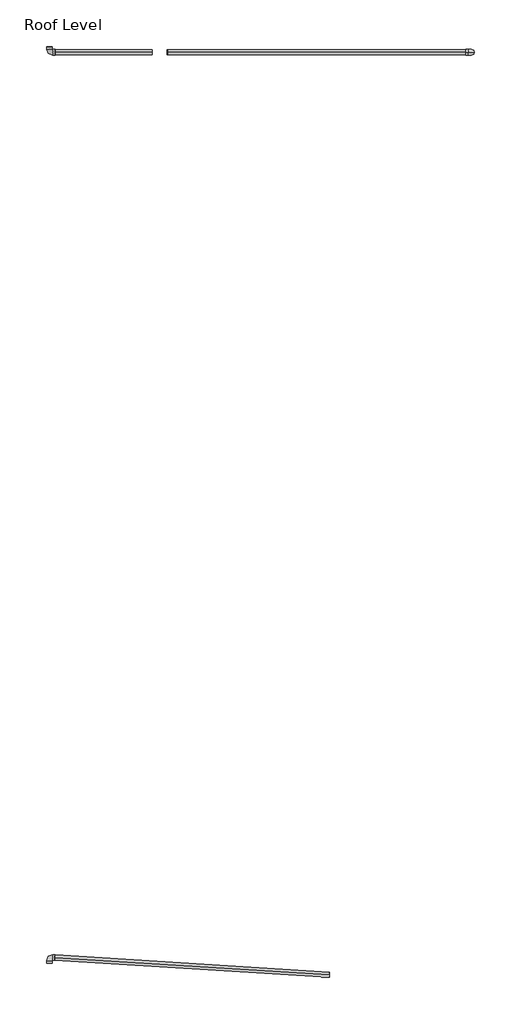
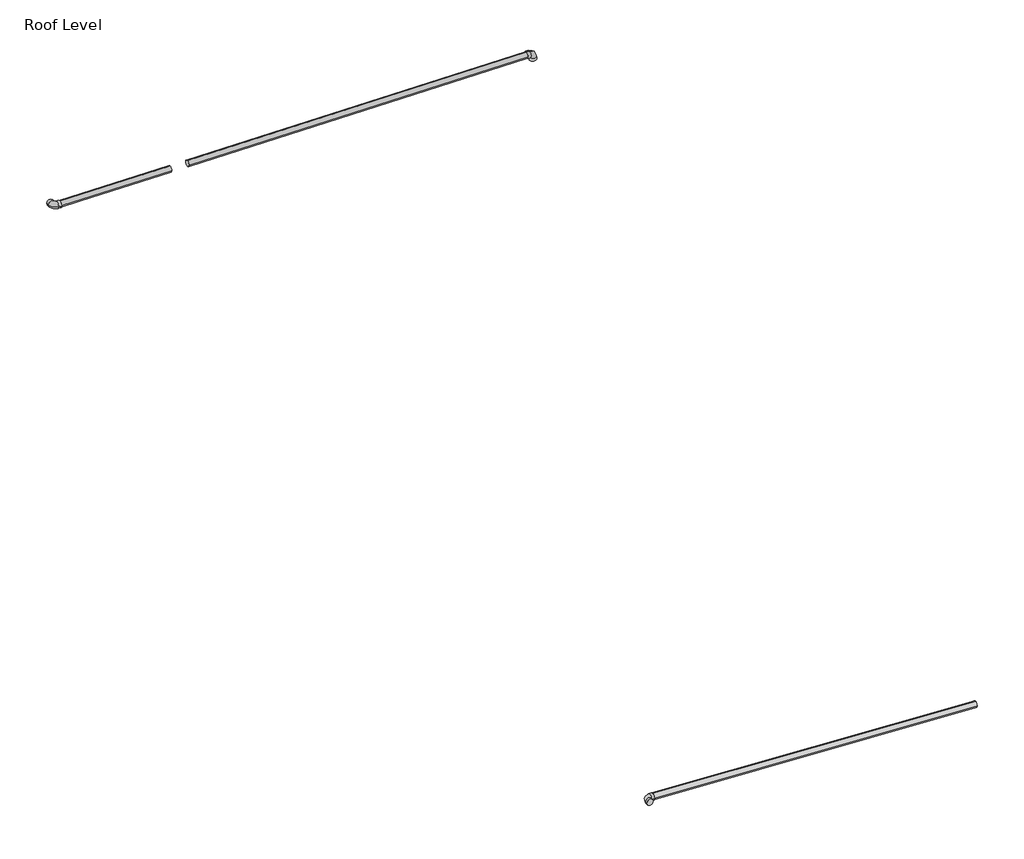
# One storey, incomplete: 3 pipe fittings, 3 pipe segments.
"""IFC4 building model written with IfcOpenShell, lengths in millimetres."""

from ifc_helpers import new_model, si_unit, point, frame, frame_2d, origin, place, context, project, spatial, circle_curve, trimmed, segment, composite_curve, outline, extrude, transform, mapped, element, save
from components import elbow_threaded_ms_standard_96f3d6e5, elbow_threaded_ms_standard_8504ba8a

model = new_model("IFC4")

# Units and contexts
model_context = context("Model", 3, world=origin())
ifc_project = project(units=[si_unit("LENGTHUNIT", "METRE", prefix="MILLI")], contexts=[model_context])

# Site, building, storey
site = spatial("IfcSite", under=ifc_project)
building = spatial("IfcBuilding", under=site)
storey = spatial("IfcBuildingStorey", under=building, Name="Roof Level", Elevation=11938.0)

# Pipe fittings
placement = place(None, origin())
elbow_threaded_ms_standard_shape = elbow_threaded_ms_standard_96f3d6e5(model_context)
element("IfcPipeFitting", 1, ObjectType="Elbow - Threaded - MS : Standard", at=placement, inside=storey, context=model_context, shape_type="MappedRepresentation", body=[
    mapped(elbow_threaded_ms_standard_shape, transform((-3065.8166812, -3992.110268, 12147.2530163), x_axis=(-0.9999218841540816, 0.0, -0.01249902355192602), y_axis=(0.00015621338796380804, -0.999921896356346, -0.012497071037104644), z_axis=(-0.012498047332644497, -0.012498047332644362, 0.9998437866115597))),
])
element("IfcPipeFitting", 2, ObjectType="Elbow - Threaded - MS : Standard", at=placement, inside=storey, context=model_context, shape_type="MappedRepresentation", body=[
    mapped(elbow_threaded_ms_standard_shape, transform((-3065.8166812, 6478.1193, 12188.1308859), x_axis=(0.0, -0.9999218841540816, -0.012499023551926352), y_axis=(0.999921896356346, 0.0001562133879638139, -0.012497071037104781), z_axis=(0.012498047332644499, -0.012498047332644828, 0.9998437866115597))),
])
elbow_threaded_ms_standard_2_shape = elbow_threaded_ms_standard_8504ba8a(model_context)
element("IfcPipeFitting", 3, ObjectType="Elbow - Threaded - MS : Standard", at=placement, inside=storey, context=model_context, shape_type="MappedRepresentation", body=[
    mapped(elbow_threaded_ms_standard_2_shape, transform((1819.6575952, 6478.1193, 12127.0624574), x_axis=(0.9999218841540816, 0.0, -0.012499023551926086), y_axis=(-0.012499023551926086, 0.0, -0.9999218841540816), z_axis=(0.0, 1.0, 0.0))),
])

# Pipe segments
element("IfcPipeSegment", 4, ObjectType="Carbon Steel", at=placement, inside=storey, context=model_context, shape_type="SweptSolid", body=[
    extrude(outline(composite_curve([segment(trimmed(circle_curve(frame_2d((0.0, -30.1625)), 30.1625), [point((30.1492213, -29.2675918))], [point((0.8949081, -60.3117213))], False, "CARTESIAN"), True, "CONTINUOUS"), segment(trimmed(circle_curve(frame_2d((0.0, -30.1625)), 30.1625), [point((0.8949081, -60.3117213))], [point((-30.1492214, -31.0574081))], False, "CARTESIAN"), True, "CONTINUOUS"), segment(trimmed(circle_curve(frame_2d((0.0, -30.1625)), 30.1625), [point((-30.1492214, -31.0574081))], [point((-0.8949081, -0.0132787))], False, "CARTESIAN"), True, "CONTINUOUS"), segment(trimmed(circle_curve(frame_2d((0.0, -30.1625)), 30.1625), [point((-0.8949081, -0.0132787))], [point((30.1492213, -29.2675918))], False, "CARTESIAN"), True, "CONTINUOUS")], self_intersect=False)), frame((-3001.9216728, -3991.2135871, 12178.2008725), z_axis=(0.9980212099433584, -0.06285038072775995, 0.0018692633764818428), x_axis=(0.06287817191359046, 0.9975800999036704, -0.02966950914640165)), (0.0, 0.0, 1.0), 3182.1605165),
])
element("IfcPipeSegment", 5, ObjectType="Carbon Steel", at=placement, inside=storey, context=model_context, shape_type="SweptSolid", body=[
    extrude(outline(composite_curve([segment(trimmed(circle_curve(frame_2d((0.0, -30.1625)), 30.1625), [point((0.0, -60.325))], [point((-30.1625, -30.1625))], False, "CARTESIAN"), True, "CONTINUOUS"), segment(trimmed(circle_curve(frame_2d((0.0, -30.1625)), 30.1625), [point((-30.1625, -30.1625))], [point((0.0, 0.0))], False, "CARTESIAN"), True, "CONTINUOUS"), segment(trimmed(circle_curve(frame_2d((0.0, -30.1625)), 30.1625), [point((0.0, 0.0))], [point((30.1625001, -30.1625))], False, "CARTESIAN"), True, "CONTINUOUS"), segment(trimmed(circle_curve(frame_2d((0.0, -30.1625)), 30.1625), [point((30.1625001, -30.1625))], [point((0.0, -60.325))], False, "CARTESIAN"), True, "CONTINUOUS")], self_intersect=False)), frame((1755.7625868, 6508.2818, 12127.861145), z_axis=(-0.9999218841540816, 0.0, 0.012499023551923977), x_axis=(0.012499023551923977, 0.0, 0.9999218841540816)), (0.0, 0.0, 1.0), 3457.2517113),
])
element("IfcPipeSegment", 6, ObjectType="Carbon Steel", at=placement, inside=storey, context=model_context, shape_type="SweptSolid", body=[
    extrude(outline(composite_curve([segment(trimmed(circle_curve(frame_2d((0.0, -30.1625)), 30.1625), [point((0.0, -60.325))], [point((-30.1625, -30.1625))], False, "CARTESIAN"), True, "CONTINUOUS"), segment(trimmed(circle_curve(frame_2d((0.0, -30.1625)), 30.1625), [point((-30.1625, -30.1625))], [point((0.0, 0.0))], False, "CARTESIAN"), True, "CONTINUOUS"), segment(trimmed(circle_curve(frame_2d((0.0, -30.1625)), 30.1625), [point((0.0, 0.0))], [point((30.1625, -30.1625))], False, "CARTESIAN"), True, "CONTINUOUS"), segment(trimmed(circle_curve(frame_2d((0.0, -30.1625)), 30.1625), [point((30.1625, -30.1625))], [point((0.0, -60.325))], False, "CARTESIAN"), True, "CONTINUOUS")], self_intersect=False)), frame((-1879.2051536, 6508.2818, 12173.2982418), z_axis=(-0.9999218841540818, 0.0, 0.012499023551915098), x_axis=(0.012499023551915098, 0.0, 0.9999218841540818)), (0.0, 0.0, 1.0), 1122.804228),
])

save(model, "model.ifc")
